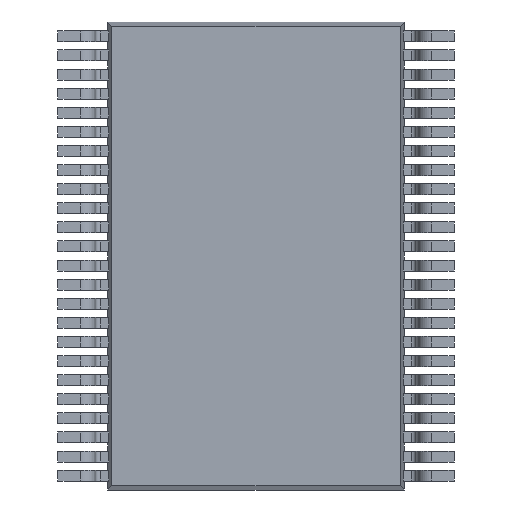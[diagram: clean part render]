
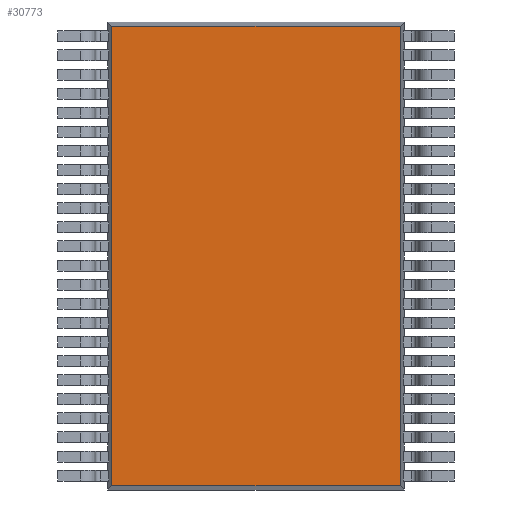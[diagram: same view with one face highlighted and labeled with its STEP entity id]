
A CAD part, front view. The second image highlights one B-rep face of the part: STEP entity #30773.
In plain terms, the highlighted planar face has unit normal (0, -1, 0).
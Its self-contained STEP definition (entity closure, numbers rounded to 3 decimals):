
#10852 = CARTESIAN_POINT ( 'NONE',  ( -3.016, 0.1, -4.816 ) ) ;
#10856 = CARTESIAN_POINT ( 'NONE',  ( -3.016, 0.1, 4.816 ) ) ;
#10858 = CARTESIAN_POINT ( 'NONE',  ( 3.016, 0.1, 4.816 ) ) ;
#10870 = CARTESIAN_POINT ( 'NONE',  ( 3.016, 0.1, -4.816 ) ) ;
#11780 = LINE ( 'NONE', #12894, #11789 ) ;
#11789 = VECTOR ( 'NONE', #12908, 1000. ) ;
#11796 = LINE ( 'NONE', #12909, #11805 ) ;
#11805 = VECTOR ( 'NONE', #12924, 1000. ) ;
#11959 = LINE ( 'NONE', #13082, #11962 ) ;
#11961 = LINE ( 'NONE', #13084, #11964 ) ;
#11962 = VECTOR ( 'NONE', #13083, 1000. ) ;
#11964 = VECTOR ( 'NONE', #13085, 1000. ) ;
#12894 = CARTESIAN_POINT ( 'NONE',  ( -3.016, 0.1, 4.9 ) ) ;
#12908 = DIRECTION ( 'NONE',  ( 0., 0., -1. ) ) ;
#12909 = CARTESIAN_POINT ( 'NONE',  ( 3.016, 0.1, 4.9 ) ) ;
#12924 = DIRECTION ( 'NONE',  ( 0., 0., 1. ) ) ;
#13082 = CARTESIAN_POINT ( 'NONE',  ( 3.1, 0.1, -4.816 ) ) ;
#13083 = DIRECTION ( 'NONE',  ( 1., 0., 0. ) ) ;
#13084 = CARTESIAN_POINT ( 'NONE',  ( 3.1, 0.1, 4.816 ) ) ;
#13085 = DIRECTION ( 'NONE',  ( -1., 0., 0. ) ) ;
#17240 = VERTEX_POINT ( 'NONE', #10852 ) ;
#17244 = VERTEX_POINT ( 'NONE', #10856 ) ;
#17262 = VERTEX_POINT ( 'NONE', #10858 ) ;
#17289 = VERTEX_POINT ( 'NONE', #10870 ) ;
#27333 = AXIS2_PLACEMENT_3D ( 'NONE', #28360, #28365, #28366 ) ;
#27627 = EDGE_LOOP ( 'NONE', ( #29643, #29642, #29641, #29640 ) ) ;
#28005 = FACE_OUTER_BOUND ( 'NONE', #27627, .T. ) ;
#28359 = PLANE ( 'NONE',  #27333 ) ;
#28360 = CARTESIAN_POINT ( 'NONE',  ( 0., 0.1, 0. ) ) ;
#28365 = DIRECTION ( 'NONE',  ( 0., 1., 0. ) ) ;
#28366 = DIRECTION ( 'NONE',  ( 0., 0., 1. ) ) ;
#28834 = EDGE_CURVE ( 'NONE', #17244, #17240, #11780, .T. ) ;
#28842 = EDGE_CURVE ( 'NONE', #17289, #17262, #11796, .T. ) ;
#28921 = EDGE_CURVE ( 'NONE', #17240, #17289, #11959, .T. ) ;
#28922 = EDGE_CURVE ( 'NONE', #17262, #17244, #11961, .T. ) ;
#29640 = ORIENTED_EDGE ( 'NONE', *, *, #28922, .T. ) ;
#29641 = ORIENTED_EDGE ( 'NONE', *, *, #28842, .T. ) ;
#29642 = ORIENTED_EDGE ( 'NONE', *, *, #28921, .T. ) ;
#29643 = ORIENTED_EDGE ( 'NONE', *, *, #28834, .T. ) ;
#30773 = ADVANCED_FACE ( 'NONE', ( #28005 ), #28359, .F. ) ;
